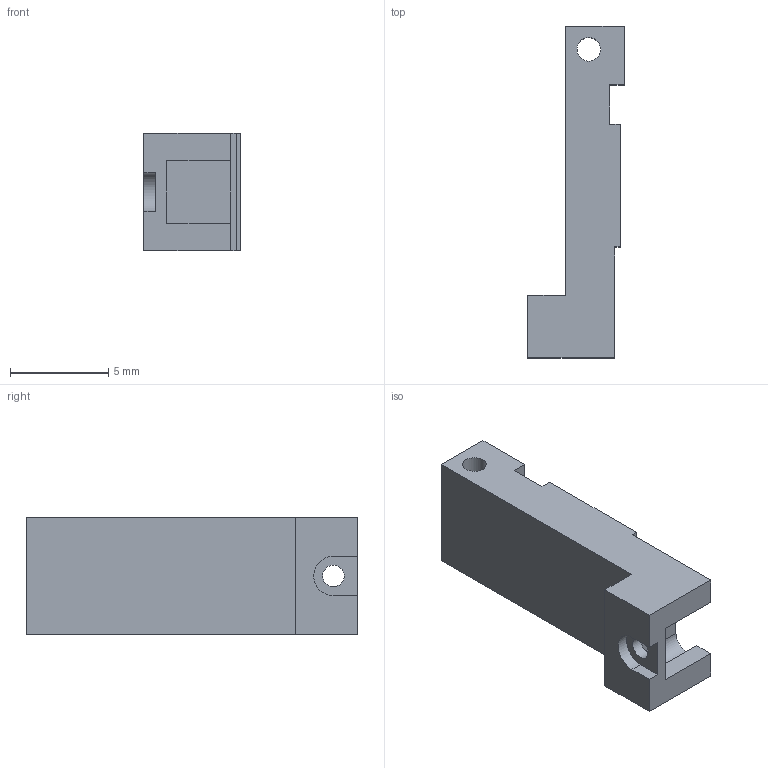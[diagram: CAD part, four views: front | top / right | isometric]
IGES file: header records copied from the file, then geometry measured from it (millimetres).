
Global section: file name: triad-v2b-left-arm-W VER3; native system: unknown; preprocessor: unknown; author: unknown; organization: unknown; date: 20210615.152642; units: millimetre
Bounding box: 4.92 x 16.91 x 6 mm (x, y, z)
Volume: 266.3 mm3; surface area: 415.8 mm2
Topology: 1 solids, 1 shells, 26 faces, 73 edges, 49 vertices
Faces by surface type: bspline 26
